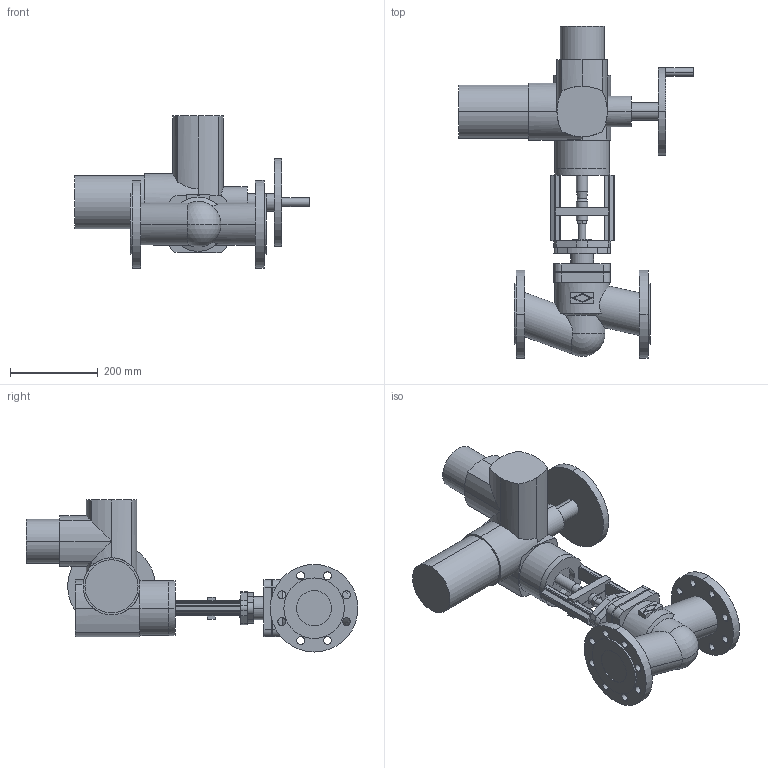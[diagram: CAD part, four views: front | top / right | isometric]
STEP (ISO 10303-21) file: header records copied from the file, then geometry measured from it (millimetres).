
FILE_DESCRIPTION(('OneSpaceDesigner STEP Export'),'2;1');
FILE_NAME('c000003091.stp','2007-01-09T10:47:06',(''),(''),'OneSpace Designer STEP processor for AP214 (Solid Model)','OneSpace Designer 14.00B 27-May-2006 (C) CoCreate Software GmbH','');
FILE_SCHEMA(('AUTOMOTIVE_DESIGN { 1 0 10303 214 1 1 1 1 }'));
Length unit declared in the file: millimetre
Products named in the file (3): 1; 2; 3
Bounding box: 536 x 757.5 x 347 mm (x, y, z)
Volume: 15488356.8 mm3; surface area: 860015.2 mm2
Topology: 3 solids, 3 shells, 285 faces, 730 edges, 466 vertices
Faces by surface type: cylinder 152, plane 125, cone 6, sphere 2
Entity records: 8441 total; most frequent: CARTESIAN_POINT 1921, ORIENTED_EDGE 1456, DIRECTION 1203, EDGE_CURVE 728, VERTEX_POINT 466, AXIS2_PLACEMENT_3D 409, VECTOR 385, LINE 385
